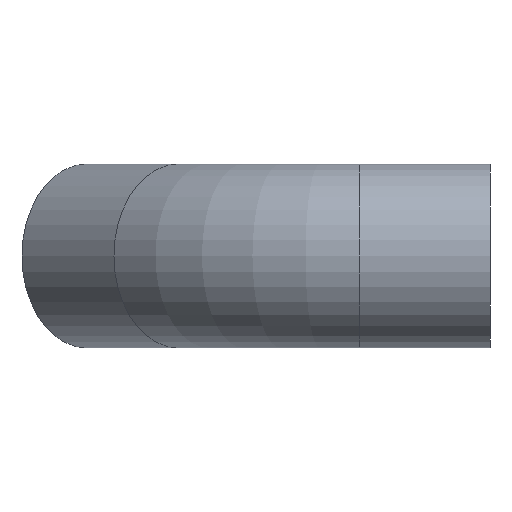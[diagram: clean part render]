
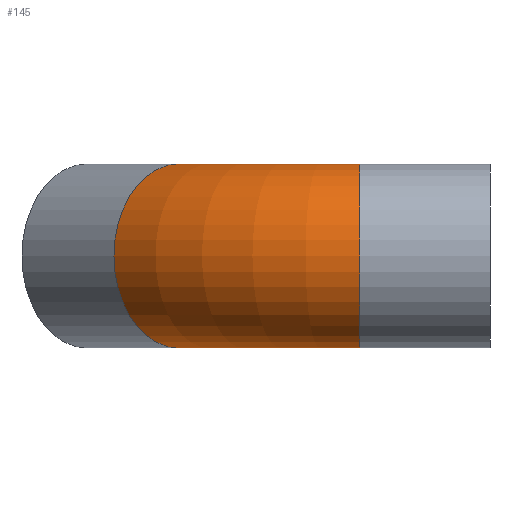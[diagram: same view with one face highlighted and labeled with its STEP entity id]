
A CAD part, left-side view. The second image highlights one B-rep face of the part: STEP entity #145.
In plain terms, the highlighted toroidal (fillet/blend) face has major radius 305 mm and minor radius 109.55 mm.
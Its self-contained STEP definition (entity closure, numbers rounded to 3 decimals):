
#20=TOROIDAL_SURFACE('',#184,305.,109.55);
#25=FACE_OUTER_BOUND('',#33,.T.);
#33=EDGE_LOOP('',(#119,#120,#121,#122,#123,#124));
#56=CIRCLE('',#182,109.55);
#57=CIRCLE('',#183,109.55);
#58=CIRCLE('',#185,195.45);
#59=CIRCLE('',#186,109.55);
#60=CIRCLE('',#187,109.55);
#71=VERTEX_POINT('',#271);
#72=VERTEX_POINT('',#273);
#73=VERTEX_POINT('',#277);
#74=VERTEX_POINT('',#279);
#89=EDGE_CURVE('',#71,#72,#56,.T.);
#90=EDGE_CURVE('',#72,#71,#57,.T.);
#91=EDGE_CURVE('',#71,#73,#58,.T.);
#92=EDGE_CURVE('',#73,#74,#59,.T.);
#93=EDGE_CURVE('',#74,#73,#60,.T.);
#119=ORIENTED_EDGE('',*,*,#90,.F.);
#120=ORIENTED_EDGE('',*,*,#89,.F.);
#121=ORIENTED_EDGE('',*,*,#91,.T.);
#122=ORIENTED_EDGE('',*,*,#92,.T.);
#123=ORIENTED_EDGE('',*,*,#93,.T.);
#124=ORIENTED_EDGE('',*,*,#91,.F.);
#145=ADVANCED_FACE('',(#25),#20,.T.);
#182=AXIS2_PLACEMENT_3D('',#274,#224,#225);
#183=AXIS2_PLACEMENT_3D('',#275,#226,#227);
#184=AXIS2_PLACEMENT_3D('',#276,#228,#229);
#185=AXIS2_PLACEMENT_3D('',#278,#230,#231);
#186=AXIS2_PLACEMENT_3D('',#280,#232,#233);
#187=AXIS2_PLACEMENT_3D('',#281,#234,#235);
#224=DIRECTION('center_axis',(0.707,0.707,0.));
#225=DIRECTION('ref_axis',(-0.707,0.707,0.));
#226=DIRECTION('center_axis',(0.707,0.707,0.));
#227=DIRECTION('ref_axis',(-0.707,0.707,0.));
#228=DIRECTION('center_axis',(0.,0.,-1.));
#229=DIRECTION('ref_axis',(-1.,0.,0.));
#230=DIRECTION('center_axis',(0.,0.,1.));
#231=DIRECTION('ref_axis',(-1.,0.,0.));
#232=DIRECTION('center_axis',(0.,1.,0.));
#233=DIRECTION('ref_axis',(-1.,0.,0.));
#234=DIRECTION('center_axis',(0.,1.,0.));
#235=DIRECTION('ref_axis',(-1.,0.,0.));
#271=CARTESIAN_POINT('',(166.796,293.204,0.));
#273=CARTESIAN_POINT('',(11.869,448.131,0.));
#274=CARTESIAN_POINT('Origin',(89.332,370.668,0.));
#275=CARTESIAN_POINT('Origin',(89.332,370.668,0.));
#276=CARTESIAN_POINT('Origin',(305.,155.,0.));
#277=CARTESIAN_POINT('',(109.55,155.,0.));
#278=CARTESIAN_POINT('Origin',(305.,155.,0.));
#279=CARTESIAN_POINT('',(-109.55,155.,0.));
#280=CARTESIAN_POINT('Origin',(0.,155.,0.));
#281=CARTESIAN_POINT('Origin',(0.,155.,0.));
